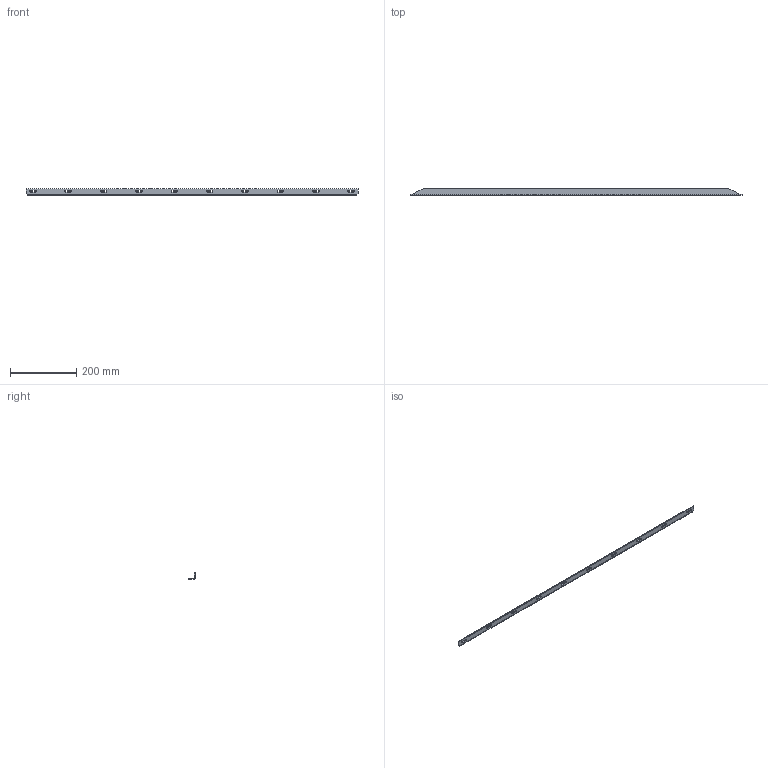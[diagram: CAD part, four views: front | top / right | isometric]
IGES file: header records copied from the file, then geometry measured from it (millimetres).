
Start section: SolidWorks IGES file using analytic representation for surfaces
Bounding box: 1000 x 20 x 20 mm (x, y, z)
Surface area: 76288.9 mm2 (no closed solid volume)
Topology: 0 solids, 0 shells, 108 faces, 1330 edges, 1330 vertices
Faces by surface type: bspline 80, revolution 28
